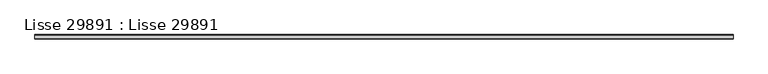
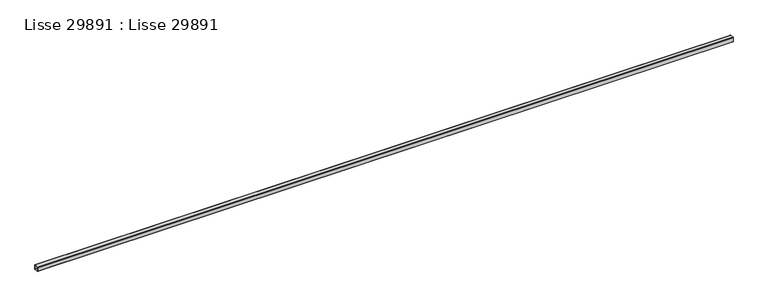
"""IFC4 building model written with IfcOpenShell, lengths in millimetres: beam geometry, Lisse 29891 : Lisse 29891."""

from ifc_helpers import new_model, si_unit, frame, origin, place, context, project, spatial, polyline, outline, extrude, source, transform, mapped, element, save


def lisse_29891_lisse_29891_af28d032(model_context):
    return source(origin(), model_context, "Body", "SweptSolid", [
        extrude(outline(polyline([(-34327.5, 10415.0), (-34239.5, 10415.0), (-34236.5, 10414.1961524), (-34234.3038476, 10412.0), (-34233.5, 10409.0), (-34233.5, 10321.0), (-34234.3038476, 10318.0), (-34236.5, 10315.8038476), (-34239.5, 10315.0), (-34327.5, 10315.0), (-34330.5, 10315.8038476), (-34332.6961524, 10318.0), (-34333.5, 10321.0), (-34333.5, 10409.0), (-34332.6961524, 10412.0), (-34330.5, 10414.1961524), (-34327.5, 10415.0)]), holes=[polyline([(-34241.5, 10319.0), (-34239.5, 10319.5358984), (-34238.0358984, 10321.0), (-34237.5, 10323.0), (-34237.5, 10407.0), (-34238.0358984, 10409.0), (-34239.5, 10410.4641016), (-34241.5, 10411.0), (-34325.5, 10411.0), (-34327.5, 10410.4641016), (-34328.9641016, 10409.0), (-34329.5, 10407.0), (-34329.5, 10323.0), (-34328.9641016, 10321.0), (-34327.5, 10319.5358984), (-34325.5, 10319.0), (-34241.5, 10319.0)])]), frame((-40.0000001, 0.0, 0.0), z_axis=(1.0, 0.0, 0.0), x_axis=(0.0, 1.0, 0.0)), (0.0, 0.0, 1.0), 15430.0),
    ])


if __name__ == "__main__":
    model = new_model("IFC4")
    model_context = context("Model", 3, world=origin())
    ifc_project = project(units=[si_unit("LENGTHUNIT", "METRE", prefix="MILLI")], contexts=[model_context])
    site = spatial("IfcSite", under=ifc_project)
    building = spatial("IfcBuilding", under=site)
    placement = place(None, origin())
    lisse_29891_lisse_29891_shape = lisse_29891_lisse_29891_af28d032(model_context)
    element("IfcBeam", 1, ObjectType="Lisse 29891 : Lisse 29891", at=placement, inside=building, context=model_context, shape_type="MappedRepresentation", body=[
        mapped(lisse_29891_lisse_29891_shape, transform((0.0, 0.0, 0.0), x_axis=(1.0, 0.0, 0.0), y_axis=(0.0, 1.0, 0.0), z_axis=(0.0, 0.0, 1.0))),
    ])
    save(model, "model.ifc")
